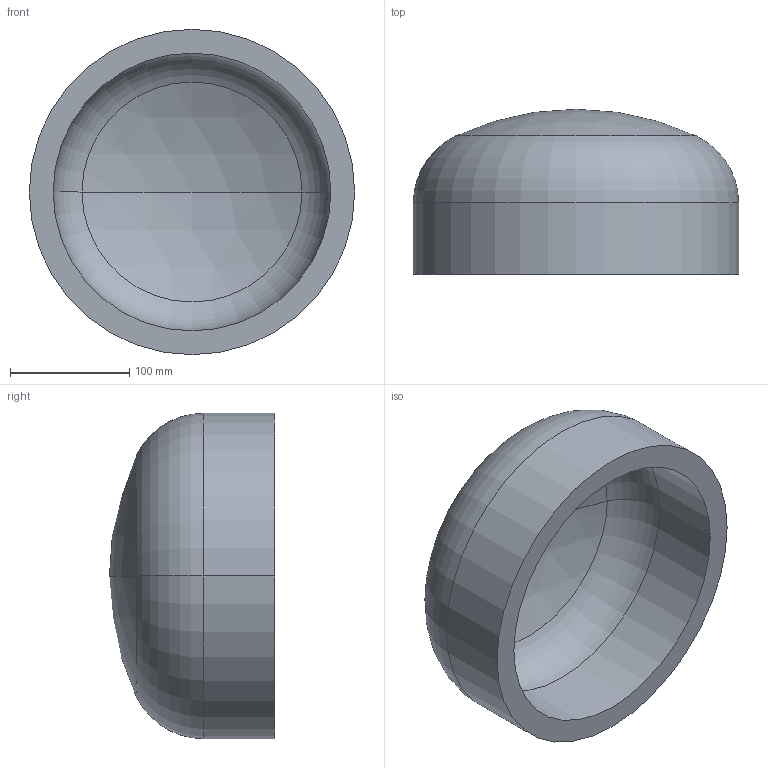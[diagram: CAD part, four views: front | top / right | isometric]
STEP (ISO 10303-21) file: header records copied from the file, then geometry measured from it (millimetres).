
FILE_DESCRIPTION (( 'STEP AP203' ), '1' );
FILE_NAME ('DIN 28013 Korbbogenform_-_Boden DIN 28013 - 273 x 60 - I - s=20.step', '2016-07-01T07:43:23', ( '' ), ( '' ), 'SwSTEP 2.0', 'SolidWorks 2013', '' );
FILE_SCHEMA (( 'CONFIG_CONTROL_DESIGN' ));
Length unit declared in the file: millimetre
Products named in the file (1): DIN 28013 Korbbogenform_-_Boden DIN 28013 - 273 x 60 - I - s=20
Bounding box: 273 x 138.55 x 273 mm (x, y, z)
Volume: 2431853.8 mm3; surface area: 259919.6 mm2
Topology: 1 solids, 1 shells, 13 faces, 24 edges, 14 vertices
Faces by surface type: torus 4, cylinder 4, sphere 4, plane 1
Entity records: 407 total; most frequent: DIRECTION 72, CARTESIAN_POINT 52, ORIENTED_EDGE 48, AXIS2_PLACEMENT_3D 34, EDGE_CURVE 24, CIRCLE 20, VERTEX_POINT 14, EDGE_LOOP 14
